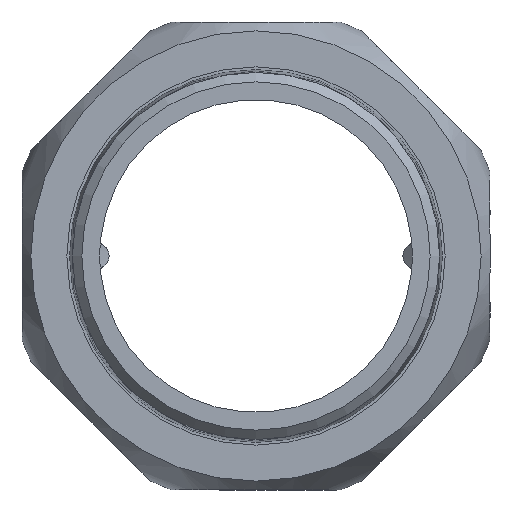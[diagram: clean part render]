
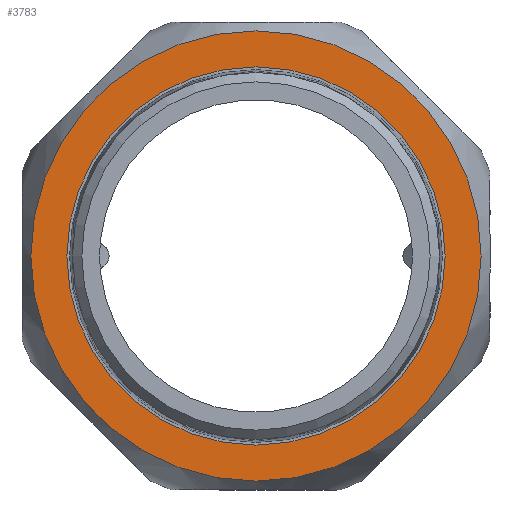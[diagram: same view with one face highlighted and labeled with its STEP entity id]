
A CAD part, left-side view. The second image highlights one B-rep face of the part: STEP entity #3783.
In plain terms, the highlighted planar face has unit normal (-1, 0, 0) as drawn and (1, 0, 0) by its records, which use the part's own axes.
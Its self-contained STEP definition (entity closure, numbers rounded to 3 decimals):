
#3749=CARTESIAN_POINT('',(25.0,36.,0.0));
#3750=VERTEX_POINT('',#3749);
#3751=CARTESIAN_POINT('',(25.0,0.0,0.0));
#3752=DIRECTION('',(1.0,0.0,0.0));
#3753=DIRECTION('',(0.0,1.0,0.0));
#3754=AXIS2_PLACEMENT_3D('',#3751,#3752,#3753);
#3755=CIRCLE('',#3754,36.);
#3756=EDGE_CURVE('',#3750,#3750,#3755,.T.);
#3764=CARTESIAN_POINT('',(25.0,33.125,0.0));
#3765=DIRECTION('',(1.0,0.0,0.0));
#3766=DIRECTION('',(0.0,0.0,-1.0));
#3767=AXIS2_PLACEMENT_3D('',#3764,#3765,#3766);
#3768=PLANE('',#3767);
#3769=ORIENTED_EDGE('',*,*,#3756,.T.);
#3770=EDGE_LOOP('',(#3769));
#3771=FACE_OUTER_BOUND('',#3770,.T.);
#3772=CARTESIAN_POINT('',(25.0,30.25,0.0));
#3773=VERTEX_POINT('',#3772);
#3774=CARTESIAN_POINT('',(25.0,0.0,0.0));
#3775=DIRECTION('',(1.0,0.0,0.0));
#3776=DIRECTION('',(0.0,1.0,0.0));
#3777=AXIS2_PLACEMENT_3D('',#3774,#3775,#3776);
#3778=CIRCLE('',#3777,30.25);
#3779=EDGE_CURVE('',#3773,#3773,#3778,.T.);
#3780=ORIENTED_EDGE('',*,*,#3779,.F.);
#3781=EDGE_LOOP('',(#3780));
#3782=FACE_BOUND('',#3781,.T.);
#3783=ADVANCED_FACE('',(#3771,#3782),#3768,.T.);
